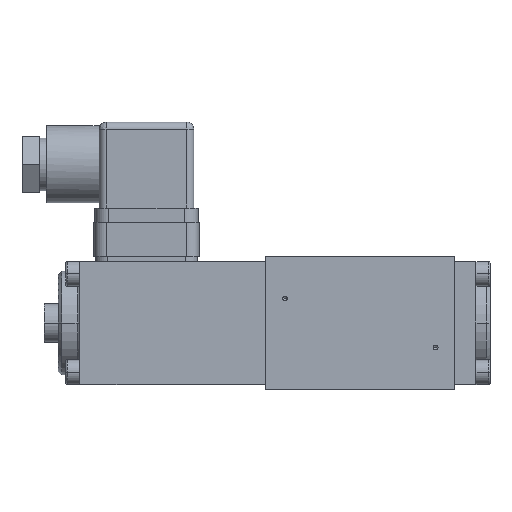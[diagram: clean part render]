
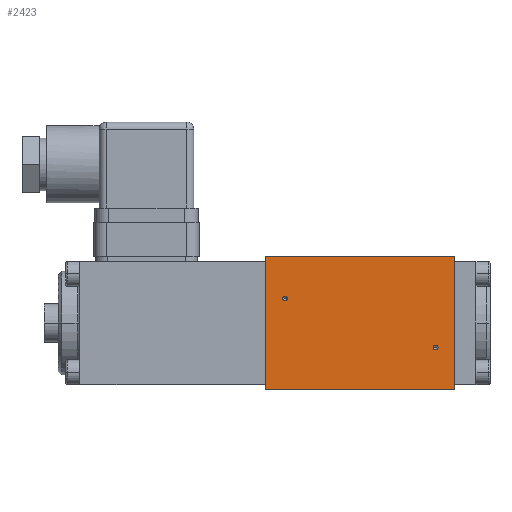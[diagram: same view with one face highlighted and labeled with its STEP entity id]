
A CAD part, top view. The second image highlights one B-rep face of the part: STEP entity #2423.
In plain terms, the highlighted planar face has unit normal (0, 0, 1).
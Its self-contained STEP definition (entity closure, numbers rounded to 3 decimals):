
#1002 = DIRECTION ( 'NONE',  ( 0., 0., -1. ) ) ;
#1415 = EDGE_LOOP ( 'NONE', ( #23154, #21252, #9266, #12370 ) ) ;
#1456 = EDGE_LOOP ( 'NONE', ( #15966, #34634 ) ) ;
#2423 = ADVANCED_FACE ( 'NONE', ( #36740, #37498, #22001 ), #25819, .F. ) ;
#2940 = EDGE_LOOP ( 'NONE', ( #27230, #34604 ) ) ;
#2983 = EDGE_CURVE ( 'NONE', #27772, #30376, #11612, .T. ) ;
#3816 = VECTOR ( 'NONE', #21361, 1000. ) ;
#3957 = DIRECTION ( 'NONE',  ( 0., -1., 0. ) ) ;
#5245 = VERTEX_POINT ( 'NONE', #28958 ) ;
#7316 = AXIS2_PLACEMENT_3D ( 'NONE', #21998, #21924, #21832 ) ;
#7626 = VECTOR ( 'NONE', #14400, 1000. ) ;
#8283 = LINE ( 'NONE', #14456, #7626 ) ;
#9211 = DIRECTION ( 'NONE',  ( -1., 0., 0. ) ) ;
#9266 = ORIENTED_EDGE ( 'NONE', *, *, #11211, .F. ) ;
#9732 = CARTESIAN_POINT ( 'NONE',  ( 54., -19., 19. ) ) ;
#9877 = CARTESIAN_POINT ( 'NONE',  ( 0., -19., 19. ) ) ;
#10837 = DIRECTION ( 'NONE',  ( 0., 0., 1. ) ) ;
#10846 = CARTESIAN_POINT ( 'NONE',  ( 48.5, -7., 19. ) ) ;
#10903 = LINE ( 'NONE', #18402, #3816 ) ;
#11211 = EDGE_CURVE ( 'NONE', #5245, #36248, #8283, .T. ) ;
#11612 = CIRCLE ( 'NONE', #26646, 0.7 ) ;
#11843 = EDGE_CURVE ( 'NONE', #36248, #34920, #36142, .T. ) ;
#12370 = ORIENTED_EDGE ( 'NONE', *, *, #32074, .T. ) ;
#13269 = VECTOR ( 'NONE', #3957, 1000. ) ;
#14161 = CARTESIAN_POINT ( 'NONE',  ( 49.2, -7., 19. ) ) ;
#14203 = LINE ( 'NONE', #30830, #13269 ) ;
#14400 = DIRECTION ( 'NONE',  ( 0., -1., 0. ) ) ;
#14456 = CARTESIAN_POINT ( 'NONE',  ( 54., 19., 19. ) ) ;
#14706 = EDGE_CURVE ( 'NONE', #30376, #27772, #25481, .T. ) ;
#15966 = ORIENTED_EDGE ( 'NONE', *, *, #14706, .F. ) ;
#16962 = VERTEX_POINT ( 'NONE', #14161 ) ;
#17452 = CIRCLE ( 'NONE', #29051, 0.7 ) ;
#18191 = CARTESIAN_POINT ( 'NONE',  ( 6.2, 7., 19. ) ) ;
#18377 = CARTESIAN_POINT ( 'NONE',  ( 47.8, -7., 19. ) ) ;
#18402 = CARTESIAN_POINT ( 'NONE',  ( 54., 19., 19. ) ) ;
#18880 = VERTEX_POINT ( 'NONE', #23221 ) ;
#19453 = CARTESIAN_POINT ( 'NONE',  ( 4.8, 7., 19. ) ) ;
#19531 = EDGE_CURVE ( 'NONE', #26867, #16962, #17452, .T. ) ;
#19609 = CIRCLE ( 'NONE', #34010, 0.7 ) ;
#21252 = ORIENTED_EDGE ( 'NONE', *, *, #11843, .F. ) ;
#21361 = DIRECTION ( 'NONE',  ( -1., 0., 0. ) ) ;
#21832 = DIRECTION ( 'NONE',  ( 1., 0., 0. ) ) ;
#21924 = DIRECTION ( 'NONE',  ( 0., 0., 1. ) ) ;
#21998 = CARTESIAN_POINT ( 'NONE',  ( 5.5, 7., 19. ) ) ;
#22001 = FACE_OUTER_BOUND ( 'NONE', #1415, .T. ) ;
#22722 = CARTESIAN_POINT ( 'NONE',  ( 54., 19., 19. ) ) ;
#23154 = ORIENTED_EDGE ( 'NONE', *, *, #31486, .T. ) ;
#23221 = CARTESIAN_POINT ( 'NONE',  ( 0., 19., 19. ) ) ;
#25481 = CIRCLE ( 'NONE', #7316, 0.7 ) ;
#25819 = PLANE ( 'NONE',  #26850 ) ;
#26646 = AXIS2_PLACEMENT_3D ( 'NONE', #37021, #36979, #36856 ) ;
#26850 = AXIS2_PLACEMENT_3D ( 'NONE', #22722, #1002, #32894 ) ;
#26867 = VERTEX_POINT ( 'NONE', #18377 ) ;
#27020 = EDGE_CURVE ( 'NONE', #16962, #26867, #19609, .T. ) ;
#27230 = ORIENTED_EDGE ( 'NONE', *, *, #27020, .F. ) ;
#27772 = VERTEX_POINT ( 'NONE', #19453 ) ;
#28378 = VECTOR ( 'NONE', #9211, 1000. ) ;
#28958 = CARTESIAN_POINT ( 'NONE',  ( 54., 19., 19. ) ) ;
#29051 = AXIS2_PLACEMENT_3D ( 'NONE', #10846, #10837, #31122 ) ;
#30376 = VERTEX_POINT ( 'NONE', #18191 ) ;
#30830 = CARTESIAN_POINT ( 'NONE',  ( 0., 19., 19. ) ) ;
#31122 = DIRECTION ( 'NONE',  ( 1., 0., 0. ) ) ;
#31486 = EDGE_CURVE ( 'NONE', #18880, #34920, #14203, .T. ) ;
#32074 = EDGE_CURVE ( 'NONE', #5245, #18880, #10903, .T. ) ;
#32894 = DIRECTION ( 'NONE',  ( 0., 1., 0. ) ) ;
#34010 = AXIS2_PLACEMENT_3D ( 'NONE', #38094, #38065, #38058 ) ;
#34604 = ORIENTED_EDGE ( 'NONE', *, *, #19531, .F. ) ;
#34634 = ORIENTED_EDGE ( 'NONE', *, *, #2983, .F. ) ;
#34920 = VERTEX_POINT ( 'NONE', #9877 ) ;
#35932 = CARTESIAN_POINT ( 'NONE',  ( 54., -19., 19. ) ) ;
#36142 = LINE ( 'NONE', #9732, #28378 ) ;
#36248 = VERTEX_POINT ( 'NONE', #35932 ) ;
#36740 = FACE_BOUND ( 'NONE', #1456, .T. ) ;
#36856 = DIRECTION ( 'NONE',  ( 1., 0., 0. ) ) ;
#36979 = DIRECTION ( 'NONE',  ( 0., 0., 1. ) ) ;
#37021 = CARTESIAN_POINT ( 'NONE',  ( 5.5, 7., 19. ) ) ;
#37498 = FACE_BOUND ( 'NONE', #2940, .T. ) ;
#38058 = DIRECTION ( 'NONE',  ( 1., 0., 0. ) ) ;
#38065 = DIRECTION ( 'NONE',  ( 0., 0., 1. ) ) ;
#38094 = CARTESIAN_POINT ( 'NONE',  ( 48.5, -7., 19. ) ) ;
